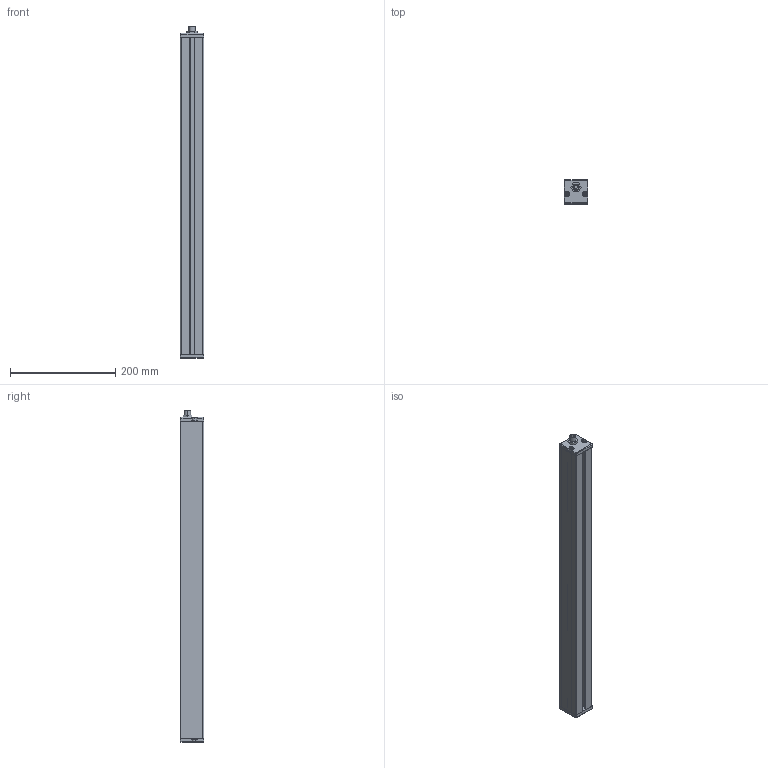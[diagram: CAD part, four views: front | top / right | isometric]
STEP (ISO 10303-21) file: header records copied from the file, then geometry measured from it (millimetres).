
FILE_DESCRIPTION (( 'STEP AP214' ), '1' );
FILE_NAME ('NBAR24.STEP', '2012-01-13T15:19:20', ( 'JRLEDS' ), ( '' ), 'SwSTEP 2.0', 'SolidWorks 2010', '' );
FILE_SCHEMA (( 'AUTOMOTIVE_DESIGN' ));
Length unit declared in the file: millimetre
Products named in the file (8): Embout ALU; PROT-NBAR24; screw_din_912-m5x0_8-10-8_8_Default; Embout percé ALU; SW3DPS-FISCHER_DBP_103_Z053-130-DEFAULT; CIR6LED; NBAR24; PROF-NBAR24
Assembly tree (13 placements, depth 2):
  NBAR24
    screw_din_912-m5x0_8-10-8_8_Default  x4
    CIR6LED  x4
    SW3DPS-FISCHER_DBP_103_Z053-130-DEFAULT
    PROT-NBAR24
    Embout percé ALU
    PROF-NBAR24
    Embout ALU
Bounding box: 45.1 x 45 x 630 mm (x, y, z)
Volume: 414518.9 mm3; surface area: 389114 mm2
Topology: 37 solids, 37 shells, 438 faces, 999 edges, 634 vertices
Faces by surface type: plane 261, cylinder 139, cone 16, torus 14, sphere 8
Entity records: 9092 total; most frequent: DIRECTION 1302, CARTESIAN_POINT 1277, ORIENTED_EDGE 1180, EDGE_CURVE 590, AXIS2_PLACEMENT_3D 456, VECTOR 390, LINE 390, VERTEX_POINT 379
